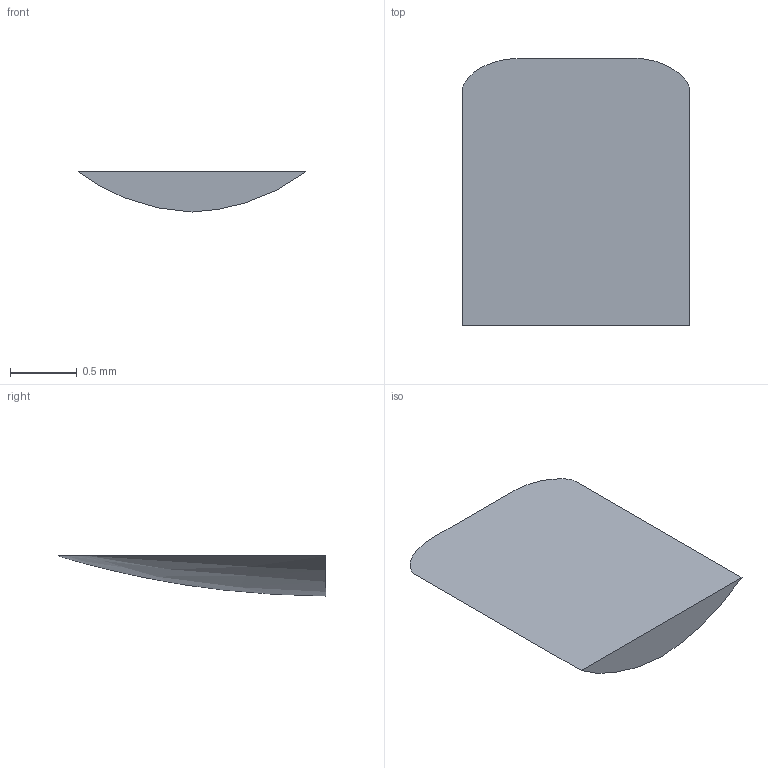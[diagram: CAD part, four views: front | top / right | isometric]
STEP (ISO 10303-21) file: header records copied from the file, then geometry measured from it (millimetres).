
FILE_DESCRIPTION(/* description */ ('STEP AP242 Edition 2','CAx-IF Rec.Pracs.---Representation and Presentation of Product Manufacturing Information (PMI)---4.0---2014-10-13','CAx-IF Rec.Pracs.---3D Tessellated Geometry---0.4---2014-09-14','2;1','CAx-IF Rec.Pracs.---User Defined Attributes---1.5---2016-08-15'),/* implementation_level */ '2;1');
FILE_NAME(/* name */ 'Drone Layout - Surface 71',/* time_stamp */ '2026-10-04T22:23:00Z',/* author */ (''),/* organization */ (''),/* preprocessor_version */ 'ST-DEVELOPER v20',/* originating_system */ 'ONSHAPE BY PTC INC, 1.221',/* authorisation */ ' ');
FILE_SCHEMA (('AP242_MANAGED_MODEL_BASED_3D_ENGINEERING_MIM_LF { 1 0 10303 442 3 1 4 }'));
Length unit declared in the file: metre
Products named in the file (1): USB:1__Pin (1)
Bounding box: 1.7 x 2 x 0.3 mm (x, y, z)
Volume: 0.5 mm3; surface area: 7.2 mm2
Topology: 1 solids, 1 shells, 5 faces, 11 edges, 8 vertices
Faces by surface type: bspline 2, plane 2, cylinder 1
Entity records: 223 total; most frequent: CARTESIAN_POINT 116, ORIENTED_EDGE 22, EDGE_CURVE 11, DIRECTION 11, VERTEX_POINT 8, B_SPLINE_CURVE_WITH_KNOTS 8, EDGE_LOOP 5, FACE_BOUND 5
